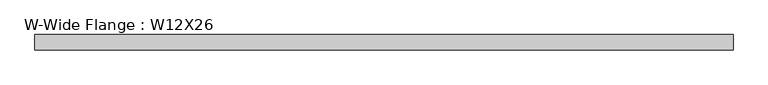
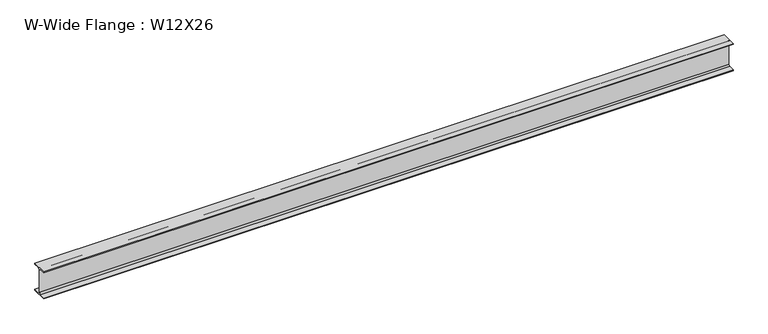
"""IFC4 building model written with IfcOpenShell, lengths in millimetres: beam geometry, W-Wide Flange : W12X26."""

from ifc_helpers import new_model, si_unit, point, frame, frame_2d, origin, place, context, project, spatial, polyline, circle_curve, trimmed, segment, composite_curve, outline, extrude, source, transform, mapped, element, save


def w_wide_flange_w12x26_4810f4f7(model_context):
    return source(origin(), model_context, "Body", "SweptSolid", [
        extrude(outline(composite_curve([segment(polyline([(82.4011719, -145.5539063), (82.4011719, -155.178125), (-82.4011719, -155.178125), (-82.4011719, -145.5539063), (-20.2902344, -145.5539063)]), True, "CONTINUOUS"), segment(trimmed(circle_curve(frame_2d((-20.2902344, -128.190625)), 17.3632812), [point((-20.2902344, -145.5539063))], [point((-2.9269531, -128.190625))], True, "CARTESIAN"), True, "CONTINUOUS"), segment(polyline([(-2.9269531, -128.190625), (-2.9269531, 128.190625)]), True, "CONTINUOUS"), segment(trimmed(circle_curve(frame_2d((-20.2902344, 128.190625)), 17.3632812), [point((-2.9269531, 128.190625))], [point((-20.2902344, 145.5539062))], True, "CARTESIAN"), True, "CONTINUOUS"), segment(polyline([(-20.2902344, 145.5539062), (-82.4011719, 145.5539062), (-82.4011719, 155.178125), (82.4011719, 155.178125), (82.4011719, 145.5539062), (20.2902344, 145.5539062)]), True, "CONTINUOUS"), segment(trimmed(circle_curve(frame_2d((20.2902344, 128.190625)), 17.3632812), [point((20.2902344, 145.5539062))], [point((2.9269531, 128.190625))], True, "CARTESIAN"), True, "CONTINUOUS"), segment(polyline([(2.9269531, 128.190625), (2.9269531, -128.190625)]), True, "CONTINUOUS"), segment(trimmed(circle_curve(frame_2d((20.2902344, -128.190625)), 17.3632812), [point((2.9269531, -128.190625))], [point((20.2902344, -145.5539063))], True, "CARTESIAN"), True, "CONTINUOUS"), segment(polyline([(20.2902344, -145.5539063), (82.4011719, -145.5539063)]), True, "CONTINUOUS")], self_intersect=False)), frame((-3754.7312703, 0.0, 0.0), z_axis=(1.0, 0.0, 0.0), x_axis=(0.0, 1.0, 0.0)), (0.0, 0.0, 1.0), 7509.4625406),
    ])


if __name__ == "__main__":
    model = new_model("IFC4")
    model_context = context("Model", 3, world=origin())
    ifc_project = project(units=[si_unit("LENGTHUNIT", "METRE", prefix="MILLI")], contexts=[model_context])
    site = spatial("IfcSite", under=ifc_project)
    building = spatial("IfcBuilding", under=site)
    placement = place(None, origin())
    w_wide_flange_w12x26_shape = w_wide_flange_w12x26_4810f4f7(model_context)
    element("IfcBeam", 1, ObjectType="W-Wide Flange : W12X26", at=placement, inside=building, context=model_context, shape_type="MappedRepresentation", body=[
        mapped(w_wide_flange_w12x26_shape, transform((0.0, 0.0, 0.0), x_axis=(1.0, 0.0, 0.0), y_axis=(0.0, 1.0, 0.0), z_axis=(0.0, 0.0, 1.0))),
    ])
    save(model, "model.ifc")
